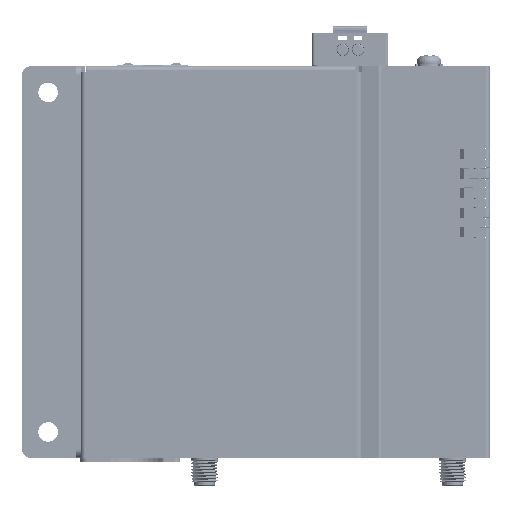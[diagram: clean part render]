
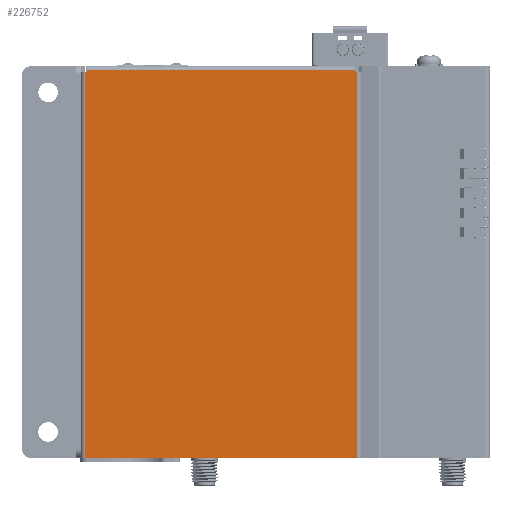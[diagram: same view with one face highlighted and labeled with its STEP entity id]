
A CAD part, top view. The second image highlights one B-rep face of the part: STEP entity #226752.
In plain terms, the highlighted planar face has unit normal (0, 0, 1) as drawn and (0, 1, 0) by its records, which use the part's own axes.
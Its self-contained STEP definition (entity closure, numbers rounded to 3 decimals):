
#2376 = CARTESIAN_POINT ( 'NONE',  ( 29.903, 39., -90. ) ) ;
#3595 = EDGE_CURVE ( 'NONE', #181627, #152934, #115669, .T. ) ;
#15410 = VECTOR ( 'NONE', #231137, 1000. ) ;
#21506 = VERTEX_POINT ( 'NONE', #93853 ) ;
#26730 = VERTEX_POINT ( 'NONE', #140802 ) ;
#28639 = PLANE ( 'NONE',  #189816 ) ;
#30687 = CARTESIAN_POINT ( 'NONE',  ( 93., 39., -90. ) ) ;
#32041 = LINE ( 'NONE', #33514, #103810 ) ;
#33514 = CARTESIAN_POINT ( 'NONE',  ( 30.481, 39., -90. ) ) ;
#38632 = VERTEX_POINT ( 'NONE', #281003 ) ;
#42378 = VECTOR ( 'NONE', #198838, 1000. ) ;
#47471 = ORIENTED_EDGE ( 'NONE', *, *, #148536, .T. ) ;
#52171 = LINE ( 'NONE', #143835, #15410 ) ;
#52651 = DIRECTION ( 'NONE',  ( 0., -1., 0. ) ) ;
#55823 = EDGE_CURVE ( 'NONE', #21506, #38632, #282972, .T. ) ;
#66560 = VECTOR ( 'NONE', #236416, 1000. ) ;
#66807 = EDGE_CURVE ( 'NONE', #149586, #118656, #257631, .T. ) ;
#67625 = EDGE_CURVE ( 'NONE', #156112, #149586, #157142, .T. ) ;
#68686 = EDGE_LOOP ( 'NONE', ( #97355, #78467, #290536, #78637, #47471, #94756, #138210, #71274 ) ) ;
#71274 = ORIENTED_EDGE ( 'NONE', *, *, #256760, .F. ) ;
#71557 = CARTESIAN_POINT ( 'NONE',  ( 30.481, 39., -1.5 ) ) ;
#71697 = CARTESIAN_POINT ( 'NONE',  ( 30.481, 39., -90. ) ) ;
#78467 = ORIENTED_EDGE ( 'NONE', *, *, #67625, .F. ) ;
#78637 = ORIENTED_EDGE ( 'NONE', *, *, #3595, .T. ) ;
#81539 = LINE ( 'NONE', #152192, #42378 ) ;
#92483 = DIRECTION ( 'NONE',  ( 1., 0., 0. ) ) ;
#93354 = CARTESIAN_POINT ( 'NONE',  ( 30.981, 39., -90. ) ) ;
#93853 = CARTESIAN_POINT ( 'NONE',  ( 30.981, 39., -1. ) ) ;
#94756 = ORIENTED_EDGE ( 'NONE', *, *, #55823, .T. ) ;
#97318 = EDGE_CURVE ( 'NONE', #156112, #181627, #32041, .T. ) ;
#97355 = ORIENTED_EDGE ( 'NONE', *, *, #66807, .F. ) ;
#103810 = VECTOR ( 'NONE', #167402, 1000. ) ;
#115669 = LINE ( 'NONE', #211805, #125992 ) ;
#116335 = VECTOR ( 'NONE', #137017, 1000. ) ;
#117420 = CARTESIAN_POINT ( 'NONE',  ( 29.903, 39., -90. ) ) ;
#117460 = CARTESIAN_POINT ( 'NONE',  ( 30.981, 39., -1.5 ) ) ;
#118656 = VERTEX_POINT ( 'NONE', #205384 ) ;
#119216 = CARTESIAN_POINT ( 'NONE',  ( 29.903, 39., -1. ) ) ;
#120356 = LINE ( 'NONE', #93354, #116335 ) ;
#125992 = VECTOR ( 'NONE', #181855, 1000. ) ;
#137017 = DIRECTION ( 'NONE',  ( 0., 0., 1. ) ) ;
#138210 = ORIENTED_EDGE ( 'NONE', *, *, #278107, .F. ) ;
#140802 = CARTESIAN_POINT ( 'NONE',  ( 92.5, 39., -1.5 ) ) ;
#143835 = CARTESIAN_POINT ( 'NONE',  ( 92.5, 39., -90. ) ) ;
#148536 = EDGE_CURVE ( 'NONE', #152934, #21506, #120356, .T. ) ;
#149586 = VERTEX_POINT ( 'NONE', #247605 ) ;
#152192 = CARTESIAN_POINT ( 'NONE',  ( 29.903, 39., -1.5 ) ) ;
#152934 = VERTEX_POINT ( 'NONE', #117460 ) ;
#156112 = VERTEX_POINT ( 'NONE', #71697 ) ;
#157142 = LINE ( 'NONE', #2376, #221670 ) ;
#167402 = DIRECTION ( 'NONE',  ( 0., 0., 1. ) ) ;
#181627 = VERTEX_POINT ( 'NONE', #71557 ) ;
#181855 = DIRECTION ( 'NONE',  ( 1., 0., 0. ) ) ;
#189816 = AXIS2_PLACEMENT_3D ( 'NONE', #117420, #52651, #209109 ) ;
#190071 = DIRECTION ( 'NONE',  ( 0., 0., 1. ) ) ;
#198838 = DIRECTION ( 'NONE',  ( -1., 0., 0. ) ) ;
#205384 = CARTESIAN_POINT ( 'NONE',  ( 93., 39., -1.5 ) ) ;
#209109 = DIRECTION ( 'NONE',  ( 0., 0., -1. ) ) ;
#211805 = CARTESIAN_POINT ( 'NONE',  ( 29.903, 39., -1.5 ) ) ;
#221670 = VECTOR ( 'NONE', #92483, 1000. ) ;
#226752 = ADVANCED_FACE ( 'NONE', ( #230137 ), #28639, .F. ) ;
#230137 = FACE_OUTER_BOUND ( 'NONE', #68686, .T. ) ;
#231137 = DIRECTION ( 'NONE',  ( 0., 0., 1. ) ) ;
#236416 = DIRECTION ( 'NONE',  ( 1., 0., 0. ) ) ;
#247605 = CARTESIAN_POINT ( 'NONE',  ( 93., 39., -90. ) ) ;
#256760 = EDGE_CURVE ( 'NONE', #118656, #26730, #81539, .T. ) ;
#257631 = LINE ( 'NONE', #30687, #269251 ) ;
#269251 = VECTOR ( 'NONE', #190071, 1000. ) ;
#278107 = EDGE_CURVE ( 'NONE', #26730, #38632, #52171, .T. ) ;
#281003 = CARTESIAN_POINT ( 'NONE',  ( 92.5, 39., -1. ) ) ;
#282972 = LINE ( 'NONE', #119216, #66560 ) ;
#290536 = ORIENTED_EDGE ( 'NONE', *, *, #97318, .T. ) ;
